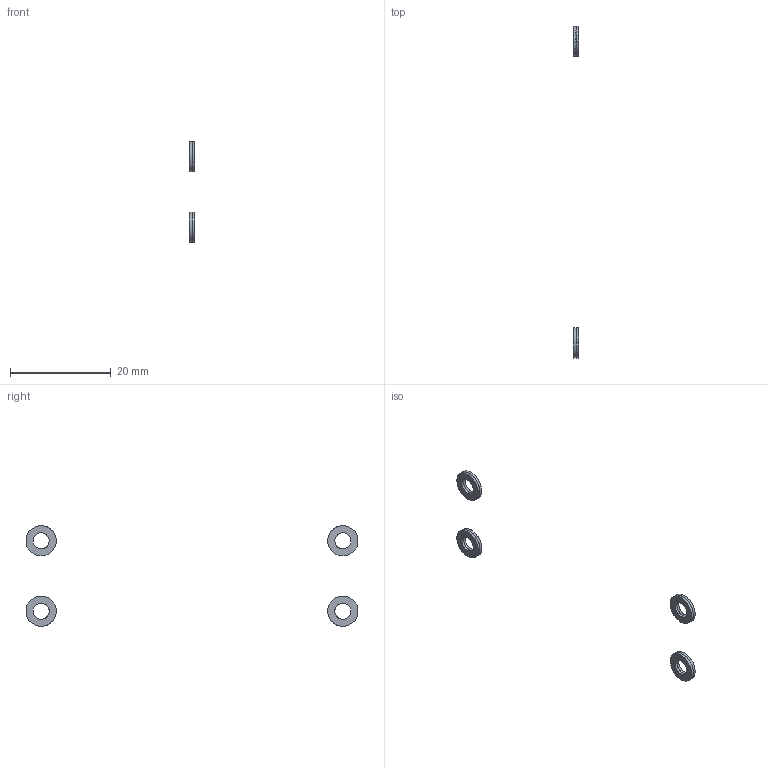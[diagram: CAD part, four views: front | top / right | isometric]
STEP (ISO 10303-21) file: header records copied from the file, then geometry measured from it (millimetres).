
FILE_DESCRIPTION(/* description */ (''),/* implementation_level */ '2;1');
FILE_NAME(/* name */ 'Y-6647~1',/* time_stamp */ '2014-02-14T19:37:51+01:00',/* author */ (''),/* organization */ (''),/* preprocessor_version */ 'ST-DEVELOPER v14',/* originating_system */ '',/* authorisation */ '');
FILE_SCHEMA (('AUTOMOTIVE_DESIGN'));
Length unit declared in the file: millimetre
Products named in the file (2): Document; washer DIN125-like, form A, M3
Assembly tree (4 placements, depth 2):
  Document
    washer DIN125-like, form A, M3  x4
Bounding box: 1 x 66 x 20 mm (x, y, z)
Surface area: 440.5 mm2 (no closed solid volume)
Topology: 0 solids, 48 shells, 48 faces, 160 edges, 160 vertices
Faces by surface type: bspline 32, plane 16
Entity records: 2543 total; most frequent: CARTESIAN_POINT 1277, B_SPLINE_CURVE_WITH_KNOTS 120, ORIENTED_EDGE 100, PCURVE 100, DEFINITIONAL_REPRESENTATION 100, SURFACE_CURVE 100, EDGE_CURVE 100, VERTEX_POINT 100
